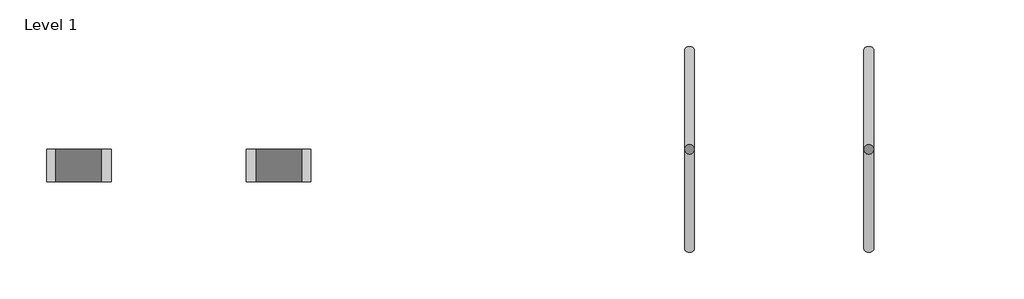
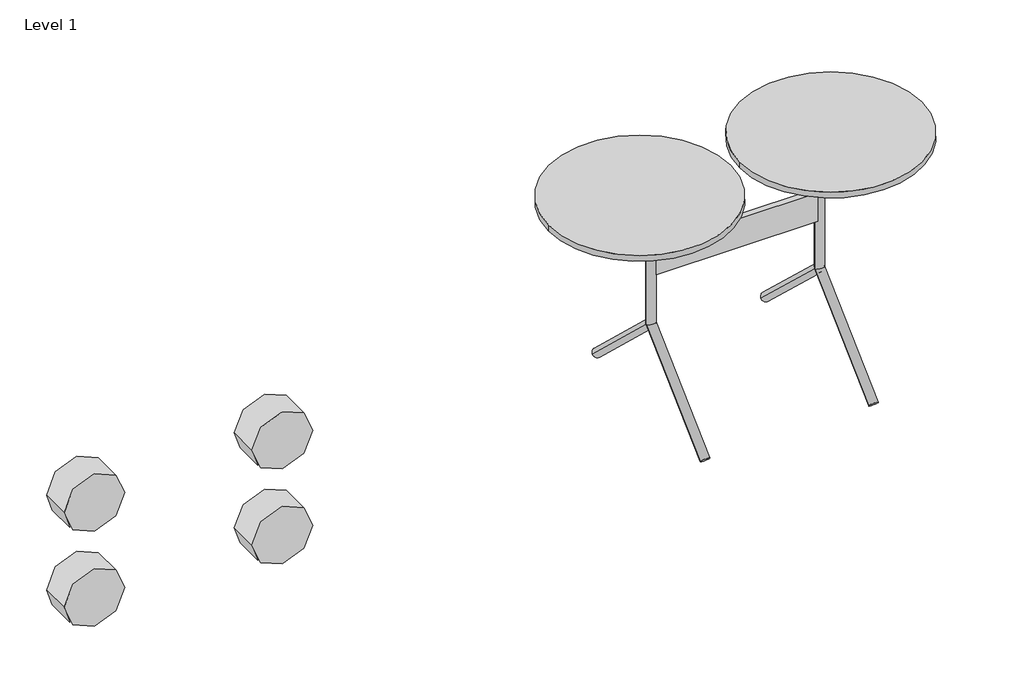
# One storey: 4 proxies, 1 furniture element.
"""IFC4 building model written with IfcOpenShell, lengths in millimetres."""

from ifc_helpers import new_model, si_unit, origin, place, context, project, spatial, transform, mapped, element, save
from components import materialmodel_materialmodel_139f3ecf, furniture_08e49e87

model = new_model("IFC4")

# Units and contexts
model_context = context("Model", 3, world=origin())
ifc_project = project(units=[si_unit("LENGTHUNIT", "METRE", prefix="MILLI")], contexts=[model_context])

# Site, building, storey
site = spatial("IfcSite", under=ifc_project)
building = spatial("IfcBuilding", under=site)
storey = spatial("IfcBuildingStorey", under=building, Name="Level 1", Elevation=0.0)

# Proxies
placement = place(None, origin())
materialmodel_materialmodel_shape = materialmodel_materialmodel_139f3ecf(model_context)
element("IfcBuildingElementProxy", 1, Name="MaterialModel : MaterialModel", ObjectType="MaterialModel : MaterialModel", at=placement, inside=storey, context=model_context, shape_type="MappedRepresentation", body=[
    mapped(materialmodel_materialmodel_shape, transform((-3508.3482009, -305.1378897, 1089.7741991), x_axis=(1.0, 0.0, 0.0), y_axis=(0.0, 1.0, 0.0), z_axis=(0.0, 0.0, 1.0))),
])
element("IfcBuildingElementProxy", 2, Name="MaterialModel : MaterialModel", ObjectType="MaterialModel : MaterialModel", at=placement, inside=storey, context=model_context, shape_type="MappedRepresentation", body=[
    mapped(materialmodel_materialmodel_shape, transform((-3508.3482009, -305.1378897, 924.2820947), x_axis=(1.0, 0.0, 0.0), y_axis=(0.0, 1.0, 0.0), z_axis=(0.0, 0.0, 1.0))),
])
element("IfcBuildingElementProxy", 3, Name="MaterialModel : MaterialModel", ObjectType="MaterialModel : MaterialModel", at=placement, inside=storey, context=model_context, shape_type="MappedRepresentation", body=[
    mapped(materialmodel_materialmodel_shape, transform((-3198.3482009, -305.1378897, 924.2820947), x_axis=(1.0, 0.0, 0.0), y_axis=(0.0, 1.0, 0.0), z_axis=(0.0, 0.0, 1.0))),
])
element("IfcBuildingElementProxy", 4, Name="MaterialModel : MaterialModel", ObjectType="MaterialModel : MaterialModel", at=placement, inside=storey, context=model_context, shape_type="MappedRepresentation", body=[
    mapped(materialmodel_materialmodel_shape, transform((-3198.3482009, -305.1378897, 1089.7741991), x_axis=(1.0, 0.0, 0.0), y_axis=(0.0, 1.0, 0.0), z_axis=(0.0, 0.0, 1.0))),
])

# Furniture
furniture_shape = furniture_08e49e87(model_context)
element("IfcFurniture", 5, ObjectType="Hjelle - Twin : Hjelle - Twin", at=placement, inside=storey, context=model_context, shape_type="MappedRepresentation", body=[
    mapped(furniture_shape, transform((-2422.3156501, -305.1264155, 966.0010439), x_axis=(1.0, 0.0, 0.0), y_axis=(0.0, 1.0, 0.0), z_axis=(0.0, 0.0, 1.0))),
])

save(model, "model.ifc")
